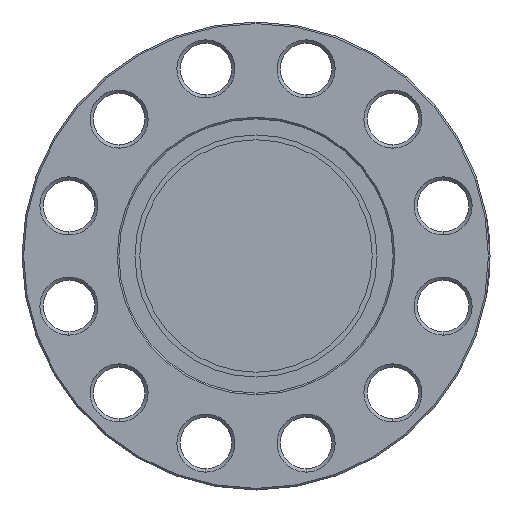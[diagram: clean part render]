
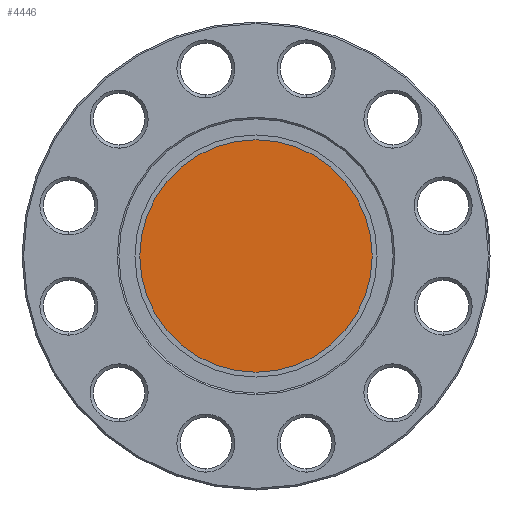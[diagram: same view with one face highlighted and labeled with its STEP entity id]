
A CAD part, front view. The second image highlights one B-rep face of the part: STEP entity #4446.
In plain terms, the highlighted planar face has unit normal (0, -1, 0).
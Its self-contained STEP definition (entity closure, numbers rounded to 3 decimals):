
#31 = DIRECTION ( 'NONE',  ( 0., -1., 0. ) ) ;
#251 = CIRCLE ( 'NONE', #5268, 36. ) ;
#309 = EDGE_CURVE ( 'NONE', #3145, #3891, #251, .T. ) ;
#453 = DIRECTION ( 'NONE',  ( 0., 0., 1. ) ) ;
#478 = DIRECTION ( 'NONE',  ( 0., 0., 1. ) ) ;
#530 = CARTESIAN_POINT ( 'NONE',  ( 0., -60., 0. ) ) ;
#551 = AXIS2_PLACEMENT_3D ( 'NONE', #530, #3461, #478 ) ;
#826 = ORIENTED_EDGE ( 'NONE', *, *, #309, .F. ) ;
#1108 = ORIENTED_EDGE ( 'NONE', *, *, #1160, .F. ) ;
#1160 = EDGE_CURVE ( 'NONE', #3891, #3145, #2747, .T. ) ;
#1462 = CARTESIAN_POINT ( 'NONE',  ( 0., -60., -36. ) ) ;
#2546 = FACE_OUTER_BOUND ( 'NONE', #5008, .T. ) ;
#2747 = CIRCLE ( 'NONE', #551, 36. ) ;
#3145 = VERTEX_POINT ( 'NONE', #4969 ) ;
#3461 = DIRECTION ( 'NONE',  ( 0., 1., 0. ) ) ;
#3687 = CARTESIAN_POINT ( 'NONE',  ( 0., -60., 0. ) ) ;
#3891 = VERTEX_POINT ( 'NONE', #1462 ) ;
#4204 = CARTESIAN_POINT ( 'NONE',  ( 0., -60., 0. ) ) ;
#4431 = AXIS2_PLACEMENT_3D ( 'NONE', #4204, #31, #4936 ) ;
#4446 = ADVANCED_FACE ( 'NONE', ( #2546 ), #4999, .T. ) ;
#4936 = DIRECTION ( 'NONE',  ( 0., 0., 1. ) ) ;
#4969 = CARTESIAN_POINT ( 'NONE',  ( 0., -60., 36. ) ) ;
#4999 = PLANE ( 'NONE',  #4431 ) ;
#5008 = EDGE_LOOP ( 'NONE', ( #1108, #826 ) ) ;
#5268 = AXIS2_PLACEMENT_3D ( 'NONE', #3687, #5365, #453 ) ;
#5365 = DIRECTION ( 'NONE',  ( 0., 1., 0. ) ) ;
